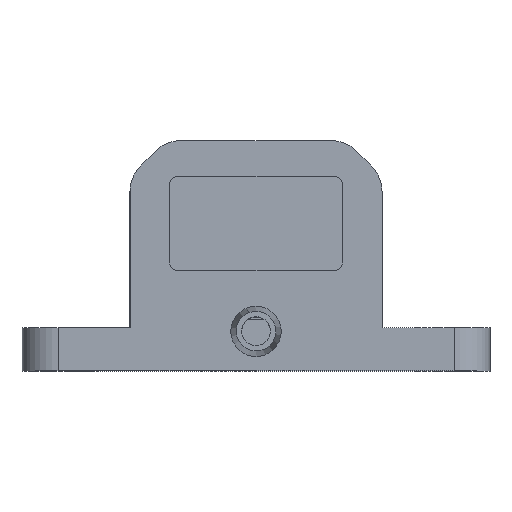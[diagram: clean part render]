
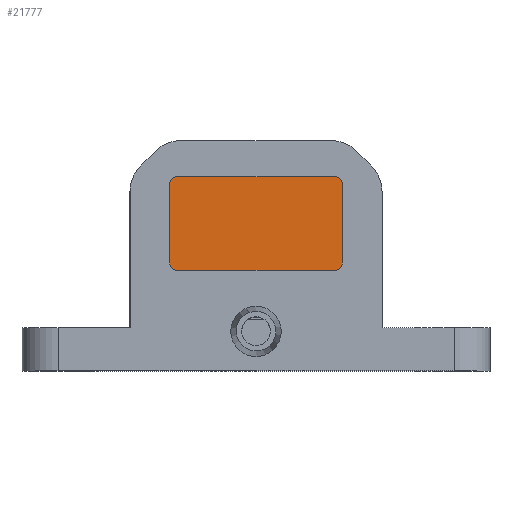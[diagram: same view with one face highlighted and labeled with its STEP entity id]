
A CAD part, top view. The second image highlights one B-rep face of the part: STEP entity #21777.
In plain terms, the highlighted planar face has unit normal (0, 0, 1).
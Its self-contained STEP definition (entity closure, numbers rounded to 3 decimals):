
#260 = DIRECTION ( 'NONE',  ( 0., 0., 1. ) ) ;
#478 = VERTEX_POINT ( 'NONE', #10981 ) ;
#886 = CIRCLE ( 'NONE', #27714, 1. ) ;
#1202 = CARTESIAN_POINT ( 'NONE',  ( -12., 26., 33.6 ) ) ;
#1846 = ORIENTED_EDGE ( 'NONE', *, *, #14216, .T. ) ;
#1910 = DIRECTION ( 'NONE',  ( 1., 0., 0. ) ) ;
#2496 = EDGE_CURVE ( 'NONE', #37945, #478, #8453, .T. ) ;
#3545 = EDGE_CURVE ( 'NONE', #32848, #25748, #20268, .T. ) ;
#3729 = VERTEX_POINT ( 'NONE', #38669 ) ;
#4589 = CIRCLE ( 'NONE', #38880, 1. ) ;
#5835 = ORIENTED_EDGE ( 'NONE', *, *, #36252, .T. ) ;
#6504 = DIRECTION ( 'NONE',  ( 0., 0., 1. ) ) ;
#7179 = VECTOR ( 'NONE', #25801, 1000. ) ;
#8453 = LINE ( 'NONE', #27546, #16590 ) ;
#8673 = AXIS2_PLACEMENT_3D ( 'NONE', #15005, #36201, #18090 ) ;
#9088 = EDGE_CURVE ( 'NONE', #35229, #3729, #886, .T. ) ;
#10036 = ORIENTED_EDGE ( 'NONE', *, *, #38335, .T. ) ;
#10857 = ORIENTED_EDGE ( 'NONE', *, *, #3545, .T. ) ;
#10981 = CARTESIAN_POINT ( 'NONE',  ( -12., 15., 33.6 ) ) ;
#13119 = CARTESIAN_POINT ( 'NONE',  ( 11., 14., 33.6 ) ) ;
#14216 = EDGE_CURVE ( 'NONE', #28113, #37945, #17779, .T. ) ;
#14858 = EDGE_LOOP ( 'NONE', ( #15465, #10857, #19915, #10036, #33176, #5835, #1846, #24993 ) ) ;
#15005 = CARTESIAN_POINT ( 'NONE',  ( -11., 26., 33.6 ) ) ;
#15465 = ORIENTED_EDGE ( 'NONE', *, *, #27032, .T. ) ;
#15891 = CIRCLE ( 'NONE', #19549, 1. ) ;
#15905 = CARTESIAN_POINT ( 'NONE',  ( -11., 27., 33.6 ) ) ;
#16590 = VECTOR ( 'NONE', #27673, 1000. ) ;
#17779 = CIRCLE ( 'NONE', #8673, 1. ) ;
#18090 = DIRECTION ( 'NONE',  ( 1., 0., 0. ) ) ;
#18563 = CARTESIAN_POINT ( 'NONE',  ( -11., 15., 33.6 ) ) ;
#18963 = DIRECTION ( 'NONE',  ( -1., 0., 0. ) ) ;
#19549 = AXIS2_PLACEMENT_3D ( 'NONE', #24753, #6504, #27774 ) ;
#19915 = ORIENTED_EDGE ( 'NONE', *, *, #29110, .T. ) ;
#20217 = DIRECTION ( 'NONE',  ( 0., 0., 1. ) ) ;
#20268 = LINE ( 'NONE', #35509, #36361 ) ;
#21650 = DIRECTION ( 'NONE',  ( 1., 0., 0. ) ) ;
#21777 = ADVANCED_FACE ( 'NONE', ( #24029 ), #24557, .T. ) ;
#22592 = VERTEX_POINT ( 'NONE', #26808 ) ;
#23375 = LINE ( 'NONE', #28840, #7179 ) ;
#24029 = FACE_OUTER_BOUND ( 'NONE', #14858, .T. ) ;
#24328 = LINE ( 'NONE', #15905, #39406 ) ;
#24557 = PLANE ( 'NONE',  #33123 ) ;
#24753 = CARTESIAN_POINT ( 'NONE',  ( 11., 15., 33.6 ) ) ;
#24993 = ORIENTED_EDGE ( 'NONE', *, *, #2496, .T. ) ;
#25748 = VERTEX_POINT ( 'NONE', #13119 ) ;
#25801 = DIRECTION ( 'NONE',  ( 0., 1., 0. ) ) ;
#26039 = DIRECTION ( 'NONE',  ( 1., 0., 0. ) ) ;
#26808 = CARTESIAN_POINT ( 'NONE',  ( 12., 15., 33.6 ) ) ;
#26892 = CARTESIAN_POINT ( 'NONE',  ( 11., 26., 33.6 ) ) ;
#27032 = EDGE_CURVE ( 'NONE', #478, #32848, #4589, .T. ) ;
#27546 = CARTESIAN_POINT ( 'NONE',  ( -12., 15., 33.6 ) ) ;
#27673 = DIRECTION ( 'NONE',  ( 0., -1., 0. ) ) ;
#27714 = AXIS2_PLACEMENT_3D ( 'NONE', #26892, #32686, #26039 ) ;
#27774 = DIRECTION ( 'NONE',  ( 1., 0., 0. ) ) ;
#28113 = VERTEX_POINT ( 'NONE', #33942 ) ;
#28840 = CARTESIAN_POINT ( 'NONE',  ( 12., 15., 33.6 ) ) ;
#29110 = EDGE_CURVE ( 'NONE', #25748, #22592, #15891, .T. ) ;
#29211 = DIRECTION ( 'NONE',  ( 1., 0., 0. ) ) ;
#31719 = CARTESIAN_POINT ( 'NONE',  ( 12., 26., 33.6 ) ) ;
#32686 = DIRECTION ( 'NONE',  ( 0., 0., 1. ) ) ;
#32848 = VERTEX_POINT ( 'NONE', #35198 ) ;
#33123 = AXIS2_PLACEMENT_3D ( 'NONE', #18563, #260, #21650 ) ;
#33176 = ORIENTED_EDGE ( 'NONE', *, *, #9088, .T. ) ;
#33942 = CARTESIAN_POINT ( 'NONE',  ( -11., 27., 33.6 ) ) ;
#35198 = CARTESIAN_POINT ( 'NONE',  ( -11., 14., 33.6 ) ) ;
#35229 = VERTEX_POINT ( 'NONE', #31719 ) ;
#35509 = CARTESIAN_POINT ( 'NONE',  ( -11., 14., 33.6 ) ) ;
#36201 = DIRECTION ( 'NONE',  ( 0., 0., 1. ) ) ;
#36252 = EDGE_CURVE ( 'NONE', #3729, #28113, #24328, .T. ) ;
#36361 = VECTOR ( 'NONE', #29211, 1000. ) ;
#37945 = VERTEX_POINT ( 'NONE', #1202 ) ;
#38282 = CARTESIAN_POINT ( 'NONE',  ( -11., 15., 33.6 ) ) ;
#38335 = EDGE_CURVE ( 'NONE', #22592, #35229, #23375, .T. ) ;
#38669 = CARTESIAN_POINT ( 'NONE',  ( 11., 27., 33.6 ) ) ;
#38880 = AXIS2_PLACEMENT_3D ( 'NONE', #38282, #20217, #1910 ) ;
#39406 = VECTOR ( 'NONE', #18963, 1000. ) ;
